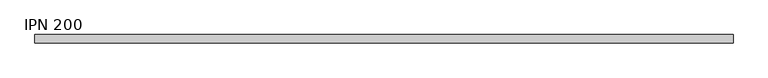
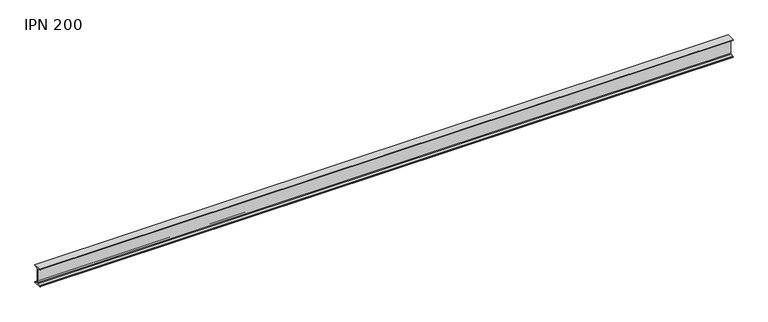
"""IFC4 building model written with IfcOpenShell, lengths in millimetres: beam geometry, IPN - Secciones en I con alas cónicas : IPN 200."""

from ifc_helpers import new_model, si_unit, point, frame, frame_2d, origin, place, context, project, spatial, polyline, circle_curve, trimmed, segment, composite_curve, outline, extrude, source, transform, mapped, element, save


def ipn_200_549c2b5a(model_context):
    return source(origin(), model_context, "Body", "SweptSolid", [
        extrude(outline(composite_curve([segment(polyline([(45.0, 100.0), (45.0, 95.763886)]), True, "CONTINUOUS"), segment(trimmed(circle_curve(frame_2d((40.5, 95.763886)), 4.5), [point((45.0, 95.763886))], [point((41.1239153, 91.3073481))], False, "CARTESIAN"), True, "CONTINUOUS"), segment(polyline([(41.1239153, 91.3073481), (10.2101412, 86.9794198)]), True, "CONTINUOUS"), segment(trimmed(circle_curve(frame_2d((11.25, 79.5518567)), 7.5), [point((10.2101412, 86.9794198))], [point((3.75, 79.5518567))], True, "CARTESIAN"), True, "CONTINUOUS"), segment(polyline([(3.75, 79.5518567), (3.75, -79.5518567)]), True, "CONTINUOUS"), segment(trimmed(circle_curve(frame_2d((11.25, -79.5518567)), 7.5), [point((3.75, -79.5518567))], [point((10.2101412, -86.9794198))], True, "CARTESIAN"), True, "CONTINUOUS"), segment(polyline([(10.2101412, -86.9794198), (41.1239153, -91.3073481)]), True, "CONTINUOUS"), segment(trimmed(circle_curve(frame_2d((40.5, -95.763886)), 4.5), [point((41.1239153, -91.3073481))], [point((45.0, -95.763886))], False, "CARTESIAN"), True, "CONTINUOUS"), segment(polyline([(45.0, -95.763886), (45.0, -100.0), (-45.0, -100.0), (-45.0, -95.763886)]), True, "CONTINUOUS"), segment(trimmed(circle_curve(frame_2d((-40.5, -95.763886)), 4.5), [point((-45.0, -95.763886))], [point((-41.1239153, -91.3073481))], False, "CARTESIAN"), True, "CONTINUOUS"), segment(polyline([(-41.1239153, -91.3073481), (-10.2101412, -86.9794198)]), True, "CONTINUOUS"), segment(trimmed(circle_curve(frame_2d((-11.25, -79.5518567)), 7.5), [point((-10.2101412, -86.9794198))], [point((-3.75, -79.5518567))], True, "CARTESIAN"), True, "CONTINUOUS"), segment(polyline([(-3.75, -79.5518567), (-3.75, 79.5518567)]), True, "CONTINUOUS"), segment(trimmed(circle_curve(frame_2d((-11.25, 79.5518567)), 7.5), [point((-3.75, 79.5518567))], [point((-10.2101412, 86.9794198))], True, "CARTESIAN"), True, "CONTINUOUS"), segment(polyline([(-10.2101412, 86.9794198), (-41.1239153, 91.3073481)]), True, "CONTINUOUS"), segment(trimmed(circle_curve(frame_2d((-40.5, 95.763886)), 4.5), [point((-41.1239153, 91.3073481))], [point((-45.0, 95.763886))], False, "CARTESIAN"), True, "CONTINUOUS"), segment(polyline([(-45.0, 95.763886), (-45.0, 100.0), (45.0, 100.0)]), True, "CONTINUOUS")], self_intersect=False)), frame((-3487.0, 0.0, 0.0), z_axis=(1.0, 0.0, 0.0), x_axis=(0.0, 1.0, 0.0)), (0.0, 0.0, 1.0), 7459.0),
    ])


if __name__ == "__main__":
    model = new_model("IFC4")
    model_context = context("Model", 3, world=origin())
    ifc_project = project(units=[si_unit("LENGTHUNIT", "METRE", prefix="MILLI")], contexts=[model_context])
    site = spatial("IfcSite", under=ifc_project)
    building = spatial("IfcBuilding", under=site)
    placement = place(None, origin())
    ipn_200_shape = ipn_200_549c2b5a(model_context)
    element("IfcBeam", 1, ObjectType="IPN - Secciones en I con alas cónicas : IPN 200", at=placement, inside=building, context=model_context, shape_type="MappedRepresentation", body=[
        mapped(ipn_200_shape, transform((0.0, 0.0, 0.0), x_axis=(1.0, 0.0, 0.0), y_axis=(0.0, 1.0, 0.0), z_axis=(0.0, 0.0, 1.0))),
    ])
    save(model, "model.ifc")
